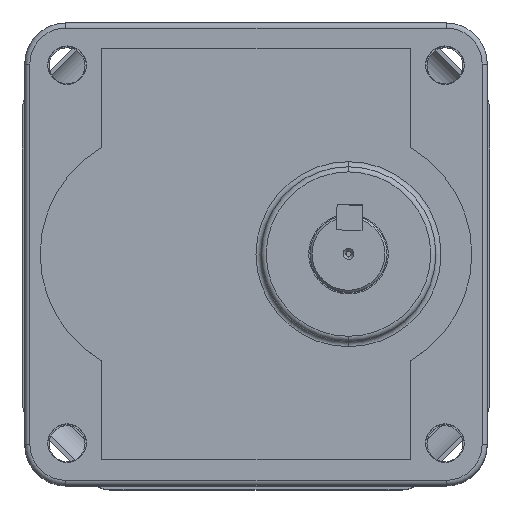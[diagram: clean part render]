
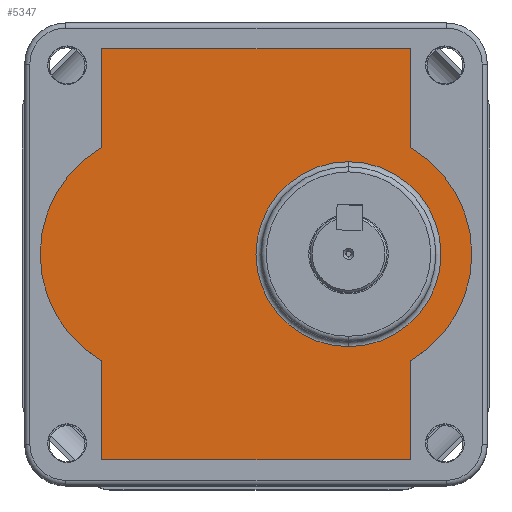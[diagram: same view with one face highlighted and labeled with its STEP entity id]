
A CAD part, top view. The second image highlights one B-rep face of the part: STEP entity #5347.
In plain terms, the highlighted planar face has unit normal (0, 0, 1).
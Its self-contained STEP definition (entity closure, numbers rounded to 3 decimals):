
#342 = VECTOR ( 'NONE', #13899, 1000. ) ;
#571 = CIRCLE ( 'NONE', #3380, 18. ) ;
#590 = DIRECTION ( 'NONE',  ( 0., 0., -1. ) ) ;
#695 = AXIS2_PLACEMENT_3D ( 'NONE', #11420, #4631, #12581 ) ;
#826 = EDGE_LOOP ( 'NONE', ( #7065, #10963, #12759, #11634, #9316, #10263, #12742, #9516 ) ) ;
#1185 = CARTESIAN_POINT ( 'NONE',  ( 48.365, -31.924, 220.75 ) ) ;
#1521 = CARTESIAN_POINT ( 'NONE',  ( 36.365, -11.139, 220.75 ) ) ;
#1882 = EDGE_CURVE ( 'NONE', #13070, #8804, #13324, .T. ) ;
#1896 = VECTOR ( 'NONE', #5029, 1000. ) ;
#1903 = ORIENTED_EDGE ( 'NONE', *, *, #4415, .T. ) ;
#1909 = DIRECTION ( 'NONE',  ( 0., 0., -1. ) ) ;
#2312 = VERTEX_POINT ( 'NONE', #7223 ) ;
#2478 = EDGE_CURVE ( 'NONE', #4769, #12701, #11873, .T. ) ;
#2669 = DIRECTION ( 'NONE',  ( 0., -1., 0. ) ) ;
#2734 = VECTOR ( 'NONE', #10367, 1000. ) ;
#3380 = AXIS2_PLACEMENT_3D ( 'NONE', #7454, #590, #8576 ) ;
#3447 = DIRECTION ( 'NONE',  ( -1., 0., 0. ) ) ;
#3893 = CARTESIAN_POINT ( 'NONE',  ( -11.635, -11.139, 220.75 ) ) ;
#4207 = EDGE_CURVE ( 'NONE', #12701, #5006, #5782, .T. ) ;
#4415 = EDGE_CURVE ( 'NONE', #2312, #8432, #571, .T. ) ;
#4631 = DIRECTION ( 'NONE',  ( 0., 0., -1. ) ) ;
#4731 = CARTESIAN_POINT ( 'NONE',  ( -11.635, -31.924, 220.75 ) ) ;
#4741 = CIRCLE ( 'NONE', #14738, 24. ) ;
#4769 = VERTEX_POINT ( 'NONE', #1185 ) ;
#4844 = CARTESIAN_POINT ( 'NONE',  ( -11.635, -11.139, 220.75 ) ) ;
#4870 = CIRCLE ( 'NONE', #695, 18. ) ;
#4932 = LINE ( 'NONE', #3893, #1896 ) ;
#5006 = VERTEX_POINT ( 'NONE', #7862 ) ;
#5029 = DIRECTION ( 'NONE',  ( 0., -1., 0. ) ) ;
#5184 = DIRECTION ( 'NONE',  ( 0., 0., 1. ) ) ;
#5347 = ADVANCED_FACE ( 'NONE', ( #5517, #11556 ), #11941, .T. ) ;
#5517 = FACE_BOUND ( 'NONE', #10615, .T. ) ;
#5707 = CARTESIAN_POINT ( 'NONE',  ( 18.365, 28.861, 220.75 ) ) ;
#5782 = LINE ( 'NONE', #6951, #2734 ) ;
#6055 = ORIENTED_EDGE ( 'NONE', *, *, #14354, .T. ) ;
#6622 = AXIS2_PLACEMENT_3D ( 'NONE', #8736, #1909, #9866 ) ;
#6700 = CIRCLE ( 'NONE', #6622, 24. ) ;
#6800 = EDGE_CURVE ( 'NONE', #14430, #8278, #6700, .T. ) ;
#6951 = CARTESIAN_POINT ( 'NONE',  ( 18.365, -51.139, 220.75 ) ) ;
#7065 = ORIENTED_EDGE ( 'NONE', *, *, #2478, .F. ) ;
#7202 = CARTESIAN_POINT ( 'NONE',  ( 48.365, -11.139, 220.75 ) ) ;
#7223 = CARTESIAN_POINT ( 'NONE',  ( 36.365, 6.861, 220.75 ) ) ;
#7327 = EDGE_CURVE ( 'NONE', #4769, #8804, #4741, .T. ) ;
#7454 = CARTESIAN_POINT ( 'NONE',  ( 36.365, -11.139, 220.75 ) ) ;
#7862 = CARTESIAN_POINT ( 'NONE',  ( -11.635, -51.139, 220.75 ) ) ;
#8278 = VERTEX_POINT ( 'NONE', #11708 ) ;
#8432 = VERTEX_POINT ( 'NONE', #13094 ) ;
#8490 = VECTOR ( 'NONE', #14699, 1000. ) ;
#8576 = DIRECTION ( 'NONE',  ( 0., -1., 0. ) ) ;
#8616 = VECTOR ( 'NONE', #3447, 1000. ) ;
#8736 = CARTESIAN_POINT ( 'NONE',  ( 0.365, -11.139, 220.75 ) ) ;
#8804 = VERTEX_POINT ( 'NONE', #9031 ) ;
#9031 = CARTESIAN_POINT ( 'NONE',  ( 48.365, 9.645, 220.75 ) ) ;
#9316 = ORIENTED_EDGE ( 'NONE', *, *, #11693, .T. ) ;
#9476 = DIRECTION ( 'NONE',  ( 0., 0., 1. ) ) ;
#9516 = ORIENTED_EDGE ( 'NONE', *, *, #4207, .F. ) ;
#9866 = DIRECTION ( 'NONE',  ( 0., -1., 0. ) ) ;
#10263 = ORIENTED_EDGE ( 'NONE', *, *, #6800, .F. ) ;
#10289 = VECTOR ( 'NONE', #11737, 1000. ) ;
#10308 = VERTEX_POINT ( 'NONE', #14313 ) ;
#10367 = DIRECTION ( 'NONE',  ( -1., 0., 0. ) ) ;
#10615 = EDGE_LOOP ( 'NONE', ( #6055, #1903 ) ) ;
#10732 = EDGE_CURVE ( 'NONE', #14430, #5006, #11046, .T. ) ;
#10839 = CARTESIAN_POINT ( 'NONE',  ( 18.365, -11.139, 220.75 ) ) ;
#10963 = ORIENTED_EDGE ( 'NONE', *, *, #7327, .T. ) ;
#11046 = LINE ( 'NONE', #4844, #342 ) ;
#11420 = CARTESIAN_POINT ( 'NONE',  ( 36.365, -11.139, 220.75 ) ) ;
#11556 = FACE_OUTER_BOUND ( 'NONE', #826, .T. ) ;
#11629 = CARTESIAN_POINT ( 'NONE',  ( 48.365, 28.861, 220.75 ) ) ;
#11634 = ORIENTED_EDGE ( 'NONE', *, *, #13723, .T. ) ;
#11641 = LINE ( 'NONE', #5707, #8616 ) ;
#11693 = EDGE_CURVE ( 'NONE', #10308, #8278, #4932, .T. ) ;
#11708 = CARTESIAN_POINT ( 'NONE',  ( -11.635, 9.645, 220.75 ) ) ;
#11737 = DIRECTION ( 'NONE',  ( 0., -1., 0. ) ) ;
#11873 = LINE ( 'NONE', #13547, #8490 ) ;
#11941 = PLANE ( 'NONE',  #12440 ) ;
#12440 = AXIS2_PLACEMENT_3D ( 'NONE', #10839, #5184, #13132 ) ;
#12581 = DIRECTION ( 'NONE',  ( 0., -1., 0. ) ) ;
#12701 = VERTEX_POINT ( 'NONE', #13353 ) ;
#12742 = ORIENTED_EDGE ( 'NONE', *, *, #10732, .T. ) ;
#12759 = ORIENTED_EDGE ( 'NONE', *, *, #1882, .F. ) ;
#13070 = VERTEX_POINT ( 'NONE', #11629 ) ;
#13094 = CARTESIAN_POINT ( 'NONE',  ( 36.365, -29.139, 220.75 ) ) ;
#13132 = DIRECTION ( 'NONE',  ( 0., -1., 0. ) ) ;
#13324 = LINE ( 'NONE', #7202, #10289 ) ;
#13353 = CARTESIAN_POINT ( 'NONE',  ( 48.365, -51.139, 220.75 ) ) ;
#13547 = CARTESIAN_POINT ( 'NONE',  ( 48.365, -11.139, 220.75 ) ) ;
#13723 = EDGE_CURVE ( 'NONE', #13070, #10308, #11641, .T. ) ;
#13899 = DIRECTION ( 'NONE',  ( 0., -1., 0. ) ) ;
#14313 = CARTESIAN_POINT ( 'NONE',  ( -11.635, 28.861, 220.75 ) ) ;
#14354 = EDGE_CURVE ( 'NONE', #8432, #2312, #4870, .T. ) ;
#14430 = VERTEX_POINT ( 'NONE', #4731 ) ;
#14699 = DIRECTION ( 'NONE',  ( 0., -1., 0. ) ) ;
#14738 = AXIS2_PLACEMENT_3D ( 'NONE', #1521, #9476, #2669 ) ;
